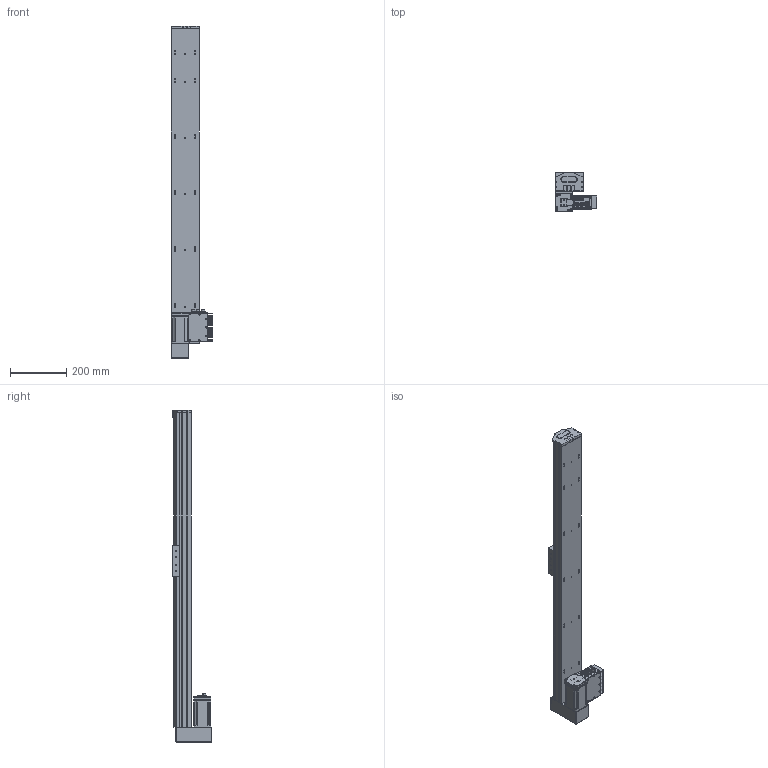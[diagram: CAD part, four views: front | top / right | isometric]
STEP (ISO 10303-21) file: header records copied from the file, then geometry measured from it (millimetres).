
FILE_DESCRIPTION (( 'STEP AP203' ), '1' );
FILE_NAME ('S 10 TSH BM S900.STEP', '2012-09-07T12:51:55', ( 'Conseil Régional Haute-Normandie' ), ( 'Conseil Régional Haute-Normandie' ), 'SwSTEP 2.0', 'SolidWorks 2010', '' );
FILE_SCHEMA (( 'CONFIG_CONTROL_DESIGN' ));
Length unit declared in the file: millimetre
Products named in the file (25): Pièce2_Default; remplir_Default; BU41 Carte Alimentation P05_3; BU45 Carte d''axe A11_5; Colonnette_3; Sub D 9cts 90_X2_00B_X0__3; Connecteur rond D12 4cts_5; Vis TF 3 torkx_1_1; Vis TF 3 torkx; S 10 TSH BM S900; axe1120_Default; piece_plastique remplieTSH_Default; embout_modifié; palette tbn2; Copie de renvoie LH2_Default; Assem1_7; T_X2_00F4_X0_le contre le moteur_5; Moteur 60BLDC90A_3; Couvercle_3; T_X2_00F4_X0_le fond_3; Connecteur rond D10 3cts_5; Radiateur profil_X2_00E9_X0_ 100x25_3; Colonnette ronde_3; T_X2_00F4_X0_le Arri_X2_00E8_X0_re_5; T_X2_00F4_X0_le lat_X2_00E9_X0_rale_5
Assembly tree (55 placements, depth 3):
  S 10 TSH BM S900
    palette tbn2
    Vis TF 3 torkx  x7
    piece_plastique remplieTSH_Default
      Pièce2_Default
      remplir_Default  x3
      embout_modifié
    Copie de renvoie LH2_Default
    Assem1_7
      BU45 Carte d''axe A11_5
      Connecteur rond D12 4cts_5
      T_X2_00F4_X0_le lat_X2_00E9_X0_rale_5  x2
      Vis TF 3 torkx_1_1  x21
      Moteur 60BLDC90A_3
      T_X2_00F4_X0_le contre le moteur_5
      Colonnette_3  x2
      Sub D 9cts 90_X2_00B_X0__3
      Radiateur profil_X2_00E9_X0_ 100x25_3
      Connecteur rond D10 3cts_5  x2
      T_X2_00F4_X0_le fond_3
      BU41 Carte Alimentation P05_3
      Couvercle_3
      Colonnette ronde_3
      T_X2_00F4_X0_le Arri_X2_00E8_X0_re_5
    axe1120_Default
Bounding box: 149.38 x 138.75 x 1182 mm (x, y, z)
Volume: 6513644.3 mm3; surface area: 841725.3 mm2
Topology: 53 solids, 53 shells, 2006 faces, 5098 edges, 3318 vertices
Faces by surface type: plane 932, cylinder 903, cone 164, sphere 4, torus 3
Entity records: 39753 total; most frequent: CARTESIAN_POINT 6654, DIRECTION 6517, ORIENTED_EDGE 5888, EDGE_CURVE 2944, AXIS2_PLACEMENT_3D 2406, VERTEX_POINT 1930, VECTOR 1705, LINE 1705
